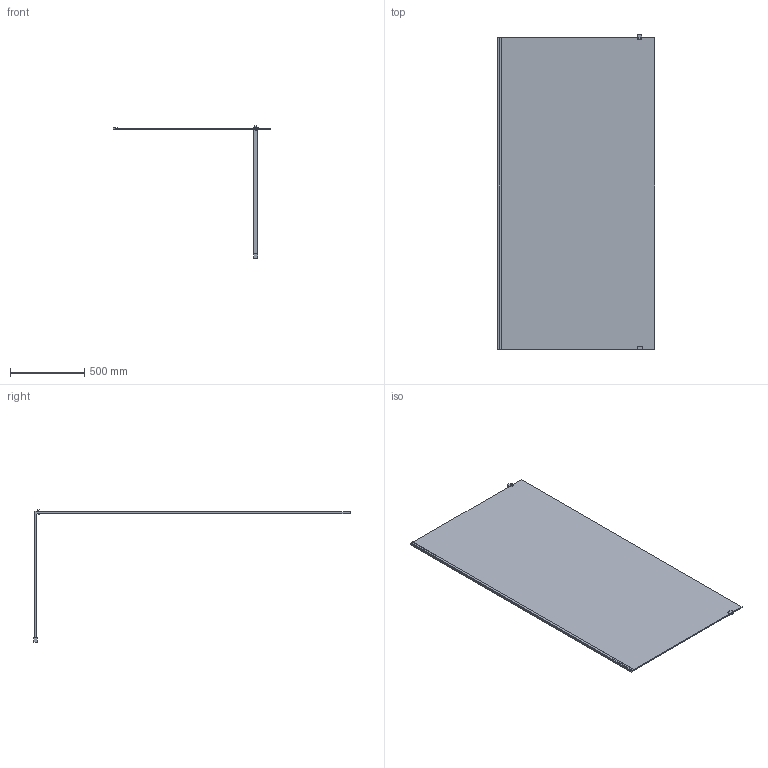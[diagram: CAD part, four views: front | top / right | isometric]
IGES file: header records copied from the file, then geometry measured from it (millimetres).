
Start section: SolidWorks IGES file using analytic representation for surfaces
Global section: file name: D:\Users\M.Szymanski\Desktop\Kabiny\PIII_ALTIIa\03. do przegrania\PIII_ALTIIa_110_K3D.IGS; native system: SolidWorks 2011; preprocessor: SolidWorks 2011; author: M.Szymanski; date: 181005.104355; units: millimetre
Bounding box: 1058.45 x 2128 x 894.4 mm (x, y, z)
Surface area: 4746624.1 mm2 (no closed solid volume)
Topology: 0 solids, 0 shells, 52 faces, 372 edges, 496 vertices
Faces by surface type: bspline 52
